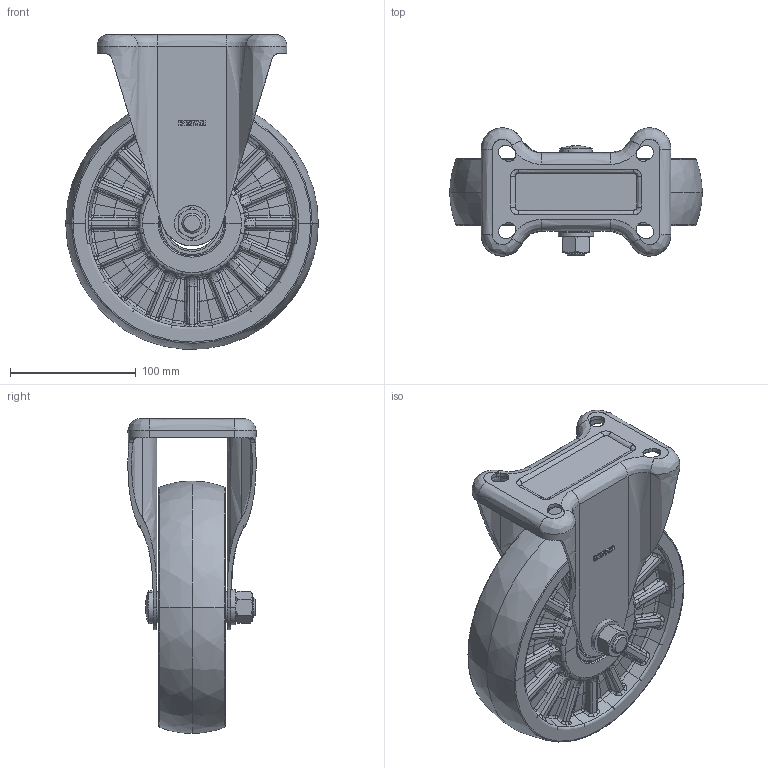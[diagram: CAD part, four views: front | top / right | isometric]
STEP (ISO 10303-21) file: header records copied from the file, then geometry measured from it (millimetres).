
FILE_DESCRIPTION (( 'STEP AP214' ), '1' );
FILE_NAME ('ME-200WK.STEP', '2023-03-09T02:45:37', ( 'sakai' ), ( 'Hewlett-Packard' ), 'SwSTEP 2.0', 'SolidWorks 2010', '' );
FILE_SCHEMA (( 'AUTOMOTIVE_DESIGN' ));
Length unit declared in the file: millimetre
Products named in the file (6): ME-200WK-10; ME-200WK-15; ME-200WK-20; ME-200WK-25; ME-200WK-30; ME-200WK
Assembly tree (5 placements, depth 2):
  ME-200WK
    ME-200WK-15
    ME-200WK-10
    ME-200WK-20
    ME-200WK-30
    ME-200WK-25
Bounding box: 201 x 101.99 x 250.32 mm (x, y, z)
Volume: 1400537 mm3; surface area: 238685 mm2
Topology: 11 solids, 11 shells, 1771 faces, 6962 edges, 5071 vertices
Faces by surface type: bspline 1581, plane 190
Entity records: 180109 total; most frequent: CARTESIAN_POINT 137345, ORIENTED_EDGE 13664, EDGE_CURVE 6832, B_SPLINE_CURVE_WITH_KNOTS 6427, VERTEX_POINT 5071, EDGE_LOOP 1789, FACE_OUTER_BOUND 1771, ADVANCED_FACE 1771
